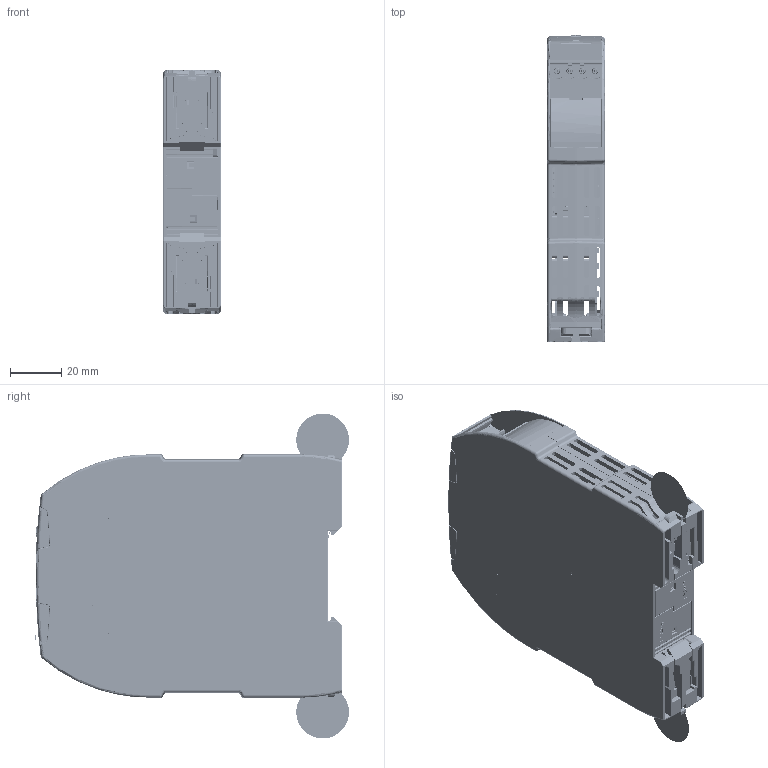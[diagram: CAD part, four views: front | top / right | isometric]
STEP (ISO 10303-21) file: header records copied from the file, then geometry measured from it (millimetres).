
FILE_DESCRIPTION((''),'2;1');
FILE_NAME('2037957','2025-07-10T10:41:51',('s.mayer'),(''),'CREO PARAMETRIC BY PTC INC, 2019292','CREO PARAMETRIC BY PTC INC, 2019292','');
FILE_SCHEMA(('AUTOMOTIVE_DESIGN { 1 0 10303 214 1 1 1 1 }'));
Products named in the file (1): 2037957
Bounding box: 22.5 x 123.04 x 127.29 mm (x, y, z)
Volume: 93879.2 mm3; surface area: 121687.4 mm2
Topology: 7 solids, 7 shells, 15404 faces, 42792 edges, 27691 vertices
Faces by surface type: plane 10705, cylinder 3156, bspline 660, extrusion 263, cone 236, sphere 219, torus 165
Full cylindrical faces by diameter (mm): 20.667 x2
Entity records: 827684 total; most frequent: CARTESIAN_POINT 183254, ORIENTED_EDGE 85536, DIRECTION 72583, PRESENTATION_STYLE_ASSIGNMENT 58319, STYLED_ITEM 43039, CURVE_STYLE 43032, EDGE_CURVE 42768, VECTOR 32883
